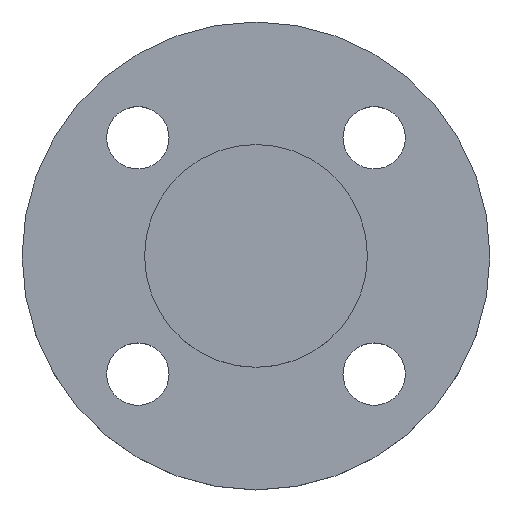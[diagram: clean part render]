
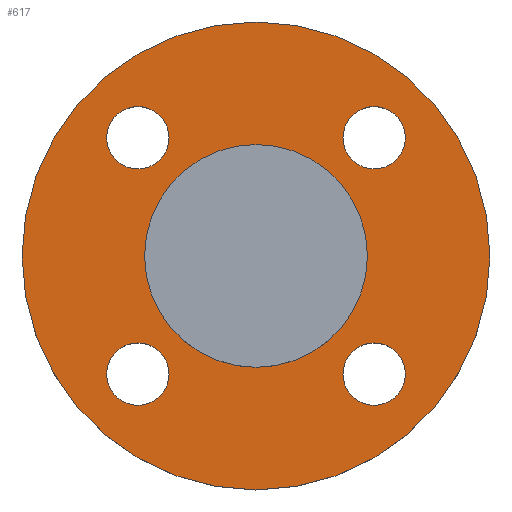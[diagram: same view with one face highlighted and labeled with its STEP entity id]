
A CAD part, top view. The second image highlights one B-rep face of the part: STEP entity #617.
In plain terms, the highlighted planar face has unit normal (0, 0, 1).
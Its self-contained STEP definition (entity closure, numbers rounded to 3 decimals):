
#12 = AXIS2_PLACEMENT_3D ( 'NONE', #602, #603, #604 ) ;
#15 = EDGE_CURVE ( 'NONE', #352, #265, #494, .T. ) ;
#18 = CIRCLE ( 'NONE', #134, 52.5 ) ;
#25 = EDGE_CURVE ( 'NONE', #255, #308, #135, .T. ) ;
#41 = CARTESIAN_POINT ( 'NONE',  ( 0., 0., -4.5 ) ) ;
#42 = DIRECTION ( 'NONE',  ( 0., 0., -1. ) ) ;
#43 = DIRECTION ( 'NONE',  ( -1., 0., 0. ) ) ;
#59 = DIRECTION ( 'NONE',  ( 0., 0., 1. ) ) ;
#63 = CARTESIAN_POINT ( 'NONE',  ( 19.517, -26.517, -4.5 ) ) ;
#66 = CIRCLE ( 'NONE', #12, 7. ) ;
#70 = EDGE_CURVE ( 'NONE', #394, #436, #226, .T. ) ;
#90 = CARTESIAN_POINT ( 'NONE',  ( 25., 0., -4.5 ) ) ;
#93 = CARTESIAN_POINT ( 'NONE',  ( -26.517, 26.517, -4.5 ) ) ;
#94 = DIRECTION ( 'NONE',  ( 1., 0., 0. ) ) ;
#99 = PLANE ( 'NONE',  #168 ) ;
#102 = CIRCLE ( 'NONE', #314, 25. ) ;
#106 = FACE_OUTER_BOUND ( 'NONE', #410, .T. ) ;
#107 = CARTESIAN_POINT ( 'NONE',  ( 0., 0., -4.5 ) ) ;
#113 = CIRCLE ( 'NONE', #543, 7. ) ;
#118 = DIRECTION ( 'NONE',  ( 0., 0., -1. ) ) ;
#119 = DIRECTION ( 'NONE',  ( -1., 0., 0. ) ) ;
#121 = CARTESIAN_POINT ( 'NONE',  ( 0., 0., -4.5 ) ) ;
#122 = DIRECTION ( 'NONE',  ( 0., 0., -1. ) ) ;
#123 = DIRECTION ( 'NONE',  ( -1., 0., 0. ) ) ;
#124 = CIRCLE ( 'NONE', #160, 7. ) ;
#134 = AXIS2_PLACEMENT_3D ( 'NONE', #121, #122, #123 ) ;
#135 = CIRCLE ( 'NONE', #230, 7. ) ;
#151 = CARTESIAN_POINT ( 'NONE',  ( -26.517, -26.517, -4.5 ) ) ;
#152 = DIRECTION ( 'NONE',  ( 0., 0., -1. ) ) ;
#153 = DIRECTION ( 'NONE',  ( 1., 0., 0. ) ) ;
#160 = AXIS2_PLACEMENT_3D ( 'NONE', #612, #613, #614 ) ;
#166 = EDGE_CURVE ( 'NONE', #406, #269, #204, .T. ) ;
#168 = AXIS2_PLACEMENT_3D ( 'NONE', #90, #59, #94 ) ;
#176 = AXIS2_PLACEMENT_3D ( 'NONE', #467, #468, #469 ) ;
#203 = FACE_BOUND ( 'NONE', #297, .T. ) ;
#204 = CIRCLE ( 'NONE', #240, 7. ) ;
#210 = FACE_BOUND ( 'NONE', #414, .T. ) ;
#211 = FACE_BOUND ( 'NONE', #425, .T. ) ;
#213 = FACE_BOUND ( 'NONE', #631, .T. ) ;
#217 = FACE_BOUND ( 'NONE', #432, .T. ) ;
#226 = CIRCLE ( 'NONE', #176, 7. ) ;
#230 = AXIS2_PLACEMENT_3D ( 'NONE', #445, #446, #447 ) ;
#240 = AXIS2_PLACEMENT_3D ( 'NONE', #502, #504, #332 ) ;
#244 = CIRCLE ( 'NONE', #646, 25. ) ;
#254 = EDGE_CURVE ( 'NONE', #269, #406, #258, .T. ) ;
#255 = VERTEX_POINT ( 'NONE', #574 ) ;
#258 = CIRCLE ( 'NONE', #633, 7. ) ;
#262 = VERTEX_POINT ( 'NONE', #581 ) ;
#265 = VERTEX_POINT ( 'NONE', #583 ) ;
#269 = VERTEX_POINT ( 'NONE', #585 ) ;
#270 = VERTEX_POINT ( 'NONE', #586 ) ;
#297 = EDGE_LOOP ( 'NONE', ( #327, #328 ) ) ;
#308 = VERTEX_POINT ( 'NONE', #600 ) ;
#310 = EDGE_CURVE ( 'NONE', #436, #394, #66, .T. ) ;
#314 = AXIS2_PLACEMENT_3D ( 'NONE', #41, #42, #43 ) ;
#327 = ORIENTED_EDGE ( 'NONE', *, *, #70, .T. ) ;
#328 = ORIENTED_EDGE ( 'NONE', *, *, #310, .T. ) ;
#329 = ORIENTED_EDGE ( 'NONE', *, *, #513, .T. ) ;
#330 = ORIENTED_EDGE ( 'NONE', *, *, #25, .T. ) ;
#332 = DIRECTION ( 'NONE',  ( 1., 0., 0. ) ) ;
#333 = ORIENTED_EDGE ( 'NONE', *, *, #632, .T. ) ;
#334 = ORIENTED_EDGE ( 'NONE', *, *, #377, .T. ) ;
#335 = ORIENTED_EDGE ( 'NONE', *, *, #166, .T. ) ;
#336 = ORIENTED_EDGE ( 'NONE', *, *, #254, .T. ) ;
#337 = ORIENTED_EDGE ( 'NONE', *, *, #422, .T. ) ;
#338 = ORIENTED_EDGE ( 'NONE', *, *, #463, .T. ) ;
#339 = ORIENTED_EDGE ( 'NONE', *, *, #15, .F. ) ;
#340 = ORIENTED_EDGE ( 'NONE', *, *, #485, .F. ) ;
#352 = VERTEX_POINT ( 'NONE', #606 ) ;
#356 = DIRECTION ( 'NONE',  ( 1., 0., 0. ) ) ;
#377 = EDGE_CURVE ( 'NONE', #270, #408, #124, .T. ) ;
#380 = DIRECTION ( 'NONE',  ( 0., 0., -1. ) ) ;
#385 = AXIS2_PLACEMENT_3D ( 'NONE', #93, #380, #356 ) ;
#394 = VERTEX_POINT ( 'NONE', #623 ) ;
#400 = VERTEX_POINT ( 'NONE', #624 ) ;
#406 = VERTEX_POINT ( 'NONE', #637 ) ;
#408 = VERTEX_POINT ( 'NONE', #619 ) ;
#410 = EDGE_LOOP ( 'NONE', ( #339, #340 ) ) ;
#414 = EDGE_LOOP ( 'NONE', ( #329, #330 ) ) ;
#422 = EDGE_CURVE ( 'NONE', #400, #262, #102, .T. ) ;
#425 = EDGE_LOOP ( 'NONE', ( #333, #334 ) ) ;
#432 = EDGE_LOOP ( 'NONE', ( #335, #336 ) ) ;
#436 = VERTEX_POINT ( 'NONE', #63 ) ;
#442 = CARTESIAN_POINT ( 'NONE',  ( 0., 0., -4.5 ) ) ;
#443 = DIRECTION ( 'NONE',  ( 0., 0., -1. ) ) ;
#444 = DIRECTION ( 'NONE',  ( -1., 0., 0. ) ) ;
#445 = CARTESIAN_POINT ( 'NONE',  ( -26.517, -26.517, -4.5 ) ) ;
#446 = DIRECTION ( 'NONE',  ( 0., 0., -1. ) ) ;
#447 = DIRECTION ( 'NONE',  ( 1., 0., 0. ) ) ;
#463 = EDGE_CURVE ( 'NONE', #262, #400, #244, .T. ) ;
#467 = CARTESIAN_POINT ( 'NONE',  ( 26.517, -26.517, -4.5 ) ) ;
#468 = DIRECTION ( 'NONE',  ( 0., 0., -1. ) ) ;
#469 = DIRECTION ( 'NONE',  ( 1., 0., 0. ) ) ;
#485 = EDGE_CURVE ( 'NONE', #265, #352, #18, .T. ) ;
#494 = CIRCLE ( 'NONE', #643, 52.5 ) ;
#502 = CARTESIAN_POINT ( 'NONE',  ( 26.517, 26.517, -4.5 ) ) ;
#504 = DIRECTION ( 'NONE',  ( 0., 0., -1. ) ) ;
#513 = EDGE_CURVE ( 'NONE', #308, #255, #113, .T. ) ;
#543 = AXIS2_PLACEMENT_3D ( 'NONE', #151, #152, #153 ) ;
#571 = CARTESIAN_POINT ( 'NONE',  ( 26.517, 26.517, -4.5 ) ) ;
#572 = DIRECTION ( 'NONE',  ( 0., 0., -1. ) ) ;
#573 = DIRECTION ( 'NONE',  ( 1., 0., 0. ) ) ;
#574 = CARTESIAN_POINT ( 'NONE',  ( -33.517, -26.517, -4.5 ) ) ;
#581 = CARTESIAN_POINT ( 'NONE',  ( 25., 0., -4.5 ) ) ;
#583 = CARTESIAN_POINT ( 'NONE',  ( -52.5, 0., -4.5 ) ) ;
#585 = CARTESIAN_POINT ( 'NONE',  ( 19.517, 26.517, -4.5 ) ) ;
#586 = CARTESIAN_POINT ( 'NONE',  ( -33.517, 26.517, -4.5 ) ) ;
#600 = CARTESIAN_POINT ( 'NONE',  ( -19.517, -26.517, -4.5 ) ) ;
#602 = CARTESIAN_POINT ( 'NONE',  ( 26.517, -26.517, -4.5 ) ) ;
#603 = DIRECTION ( 'NONE',  ( 0., 0., -1. ) ) ;
#604 = DIRECTION ( 'NONE',  ( 1., 0., 0. ) ) ;
#606 = CARTESIAN_POINT ( 'NONE',  ( 52.5, 0., -4.5 ) ) ;
#612 = CARTESIAN_POINT ( 'NONE',  ( -26.517, 26.517, -4.5 ) ) ;
#613 = DIRECTION ( 'NONE',  ( 0., 0., -1. ) ) ;
#614 = DIRECTION ( 'NONE',  ( 1., 0., 0. ) ) ;
#617 = ADVANCED_FACE ( 'NONE', ( #203, #210, #211, #217, #213, #106 ), #99, .T. ) ;
#619 = CARTESIAN_POINT ( 'NONE',  ( -19.517, 26.517, -4.5 ) ) ;
#623 = CARTESIAN_POINT ( 'NONE',  ( 33.517, -26.517, -4.5 ) ) ;
#624 = CARTESIAN_POINT ( 'NONE',  ( -25., 0., -4.5 ) ) ;
#631 = EDGE_LOOP ( 'NONE', ( #337, #338 ) ) ;
#632 = EDGE_CURVE ( 'NONE', #408, #270, #647, .T. ) ;
#633 = AXIS2_PLACEMENT_3D ( 'NONE', #571, #572, #573 ) ;
#637 = CARTESIAN_POINT ( 'NONE',  ( 33.517, 26.517, -4.5 ) ) ;
#643 = AXIS2_PLACEMENT_3D ( 'NONE', #442, #443, #444 ) ;
#646 = AXIS2_PLACEMENT_3D ( 'NONE', #107, #118, #119 ) ;
#647 = CIRCLE ( 'NONE', #385, 7. ) ;
